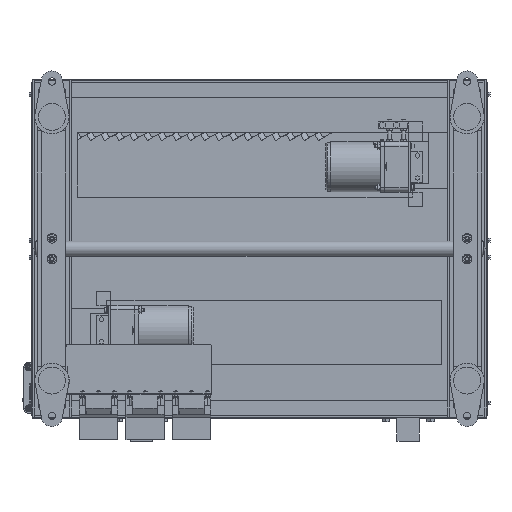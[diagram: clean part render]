
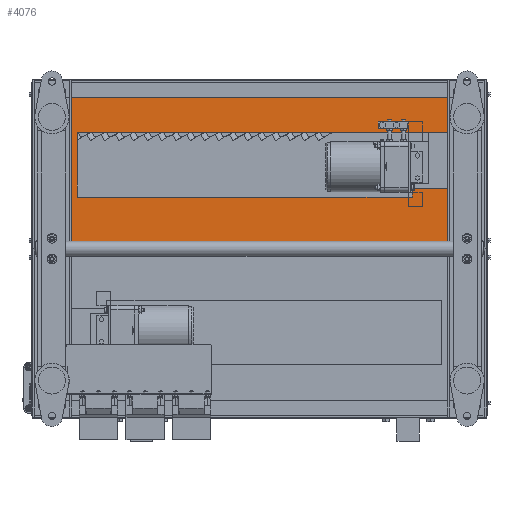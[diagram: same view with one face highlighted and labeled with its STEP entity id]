
A CAD part, front view. The second image highlights one B-rep face of the part: STEP entity #4076.
In plain terms, the highlighted planar face has unit normal (0, -1, 0).
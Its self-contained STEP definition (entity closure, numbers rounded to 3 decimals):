
#4076=ADVANCED_FACE('',(#13456,#13457),#13455,.F.);
#13455=PLANE('',#40109);
#13456=FACE_OUTER_BOUND('',#40110,.T.);
#13457=FACE_BOUND('',#40111,.T.);
#40106=CARTESIAN_POINT('',(817.,-93.,-8.5));
#40107=DIRECTION('',(0.,1.,0.));
#40108=DIRECTION('',(-1.,0.,0.));
#40109=AXIS2_PLACEMENT_3D('',#40106,#40107,#40108);
#40110=EDGE_LOOP('',(#57771,#57772,#57773,#57774));
#40111=EDGE_LOOP('',(#57775,#57776,#57777,#57778,#57779,#57780));
#57771=ORIENTED_EDGE('',*,*,#71111,.F.);
#57772=ORIENTED_EDGE('',*,*,#71109,.F.);
#57773=ORIENTED_EDGE('',*,*,#71101,.T.);
#57774=ORIENTED_EDGE('',*,*,#71112,.T.);
#57775=ORIENTED_EDGE('',*,*,#71113,.F.);
#57776=ORIENTED_EDGE('',*,*,#71114,.F.);
#57777=ORIENTED_EDGE('',*,*,#71115,.F.);
#57778=ORIENTED_EDGE('',*,*,#71116,.F.);
#57779=ORIENTED_EDGE('',*,*,#71117,.F.);
#57780=ORIENTED_EDGE('',*,*,#71118,.F.);
#71101=EDGE_CURVE('',#89912,#89904,#89913,.T.);
#71109=EDGE_CURVE('',#89912,#89965,#89966,.T.);
#71111=EDGE_CURVE('',#89965,#89978,#89979,.T.);
#71112=EDGE_CURVE('',#89904,#89978,#89985,.T.);
#71113=EDGE_CURVE('',#89991,#89992,#89993,.T.);
#71114=EDGE_CURVE('',#89999,#89991,#90000,.T.);
#71115=EDGE_CURVE('',#90006,#89999,#90007,.T.);
#71116=EDGE_CURVE('',#90013,#90006,#90014,.T.);
#71117=EDGE_CURVE('',#90020,#90013,#90021,.T.);
#71118=EDGE_CURVE('',#89992,#90020,#90027,.T.);
#89904=VERTEX_POINT('',#135210);
#89912=VERTEX_POINT('',#135215);
#89913=LINE('',#135216,#135217);
#89965=VERTEX_POINT('',#135244);
#89966=LINE('',#135245,#135246);
#89978=VERTEX_POINT('',#135251);
#89979=LINE('',#135252,#135253);
#89985=LINE('',#135255,#135256);
#89991=VERTEX_POINT('',#135258);
#89992=VERTEX_POINT('',#135259);
#89993=LINE('',#135260,#135261);
#89999=VERTEX_POINT('',#135263);
#90000=LINE('',#135264,#135265);
#90006=VERTEX_POINT('',#135267);
#90007=LINE('',#135268,#135269);
#90013=VERTEX_POINT('',#135271);
#90014=LINE('',#135272,#135273);
#90020=VERTEX_POINT('',#135275);
#90021=LINE('',#135276,#135277);
#90027=LINE('',#135279,#135280);
#135210=CARTESIAN_POINT('',(3.,-93.,297.));
#135215=CARTESIAN_POINT('',(807.,-93.,297.));
#135216=CARTESIAN_POINT('',(807.,-93.,297.));
#135217=VECTOR('',#135218,804.);
#135218=DIRECTION('',(-1.,0.,0.));
#135244=CARTESIAN_POINT('',(807.,-93.,1.5));
#135245=CARTESIAN_POINT('',(807.,-93.,297.));
#135246=VECTOR('',#135247,295.5);
#135247=DIRECTION('',(0.,0.,-1.));
#135251=CARTESIAN_POINT('',(3.,-93.,1.5));
#135252=CARTESIAN_POINT('',(807.,-93.,1.5));
#135253=VECTOR('',#135254,804.);
#135254=DIRECTION('',(-1.,0.,0.));
#135255=CARTESIAN_POINT('',(3.,-93.,297.));
#135256=VECTOR('',#135257,295.5);
#135257=DIRECTION('',(0.,0.,-1.));
#135258=CARTESIAN_POINT('',(677.,-93.,92.));
#135259=CARTESIAN_POINT('',(677.,-93.,107.));
#135260=CARTESIAN_POINT('',(677.,-93.,92.));
#135261=VECTOR('',#135262,15.);
#135262=DIRECTION('',(0.,0.,1.));
#135263=CARTESIAN_POINT('',(80.,-93.,92.));
#135264=CARTESIAN_POINT('',(80.,-93.,92.));
#135265=VECTOR('',#135266,597.);
#135266=DIRECTION('',(1.,0.,0.));
#135267=CARTESIAN_POINT('',(80.,-93.,207.));
#135268=CARTESIAN_POINT('',(80.,-93.,207.));
#135269=VECTOR('',#135270,115.);
#135270=DIRECTION('',(0.,0.,-1.));
#135271=CARTESIAN_POINT('',(770.,-93.,207.));
#135272=CARTESIAN_POINT('',(770.,-93.,207.));
#135273=VECTOR('',#135274,690.);
#135274=DIRECTION('',(-1.,0.,0.));
#135275=CARTESIAN_POINT('',(770.,-93.,107.));
#135276=CARTESIAN_POINT('',(770.,-93.,107.));
#135277=VECTOR('',#135278,100.);
#135278=DIRECTION('',(0.,0.,1.));
#135279=CARTESIAN_POINT('',(677.,-93.,107.));
#135280=VECTOR('',#135281,93.);
#135281=DIRECTION('',(1.,0.,0.));
